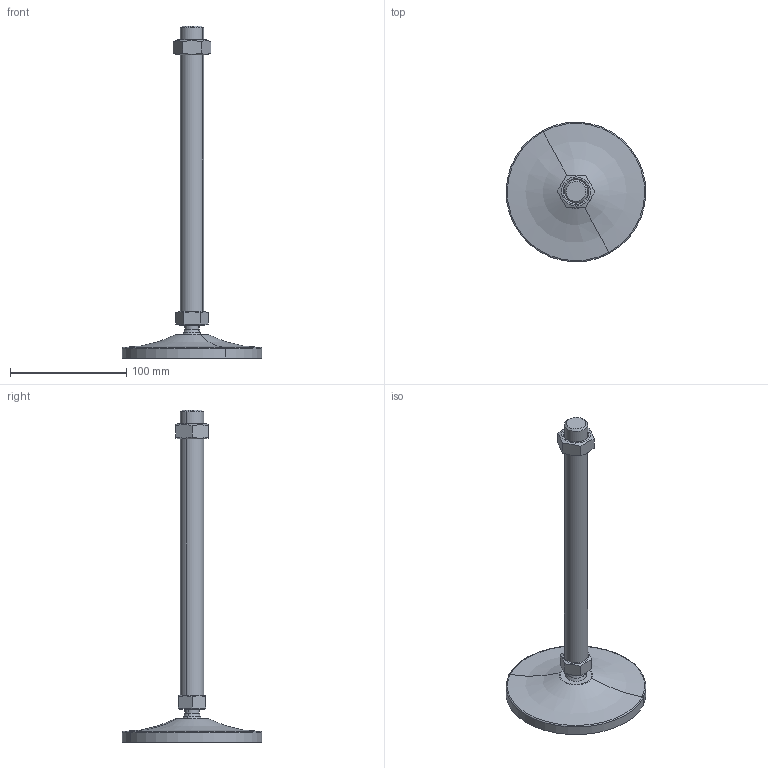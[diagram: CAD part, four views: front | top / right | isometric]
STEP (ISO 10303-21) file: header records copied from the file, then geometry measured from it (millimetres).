
FILE_DESCRIPTION(('CATIA V5 STEP Exchange'),'2;1');
FILE_NAME('C:\Users\ALI OZGUN\Desktop\alhan\saplama2\560122029.stp','2017-09-21T10:36:14+00:00',('none'),('none'),'CATIA Version 5 Release 21 GA (IN-10)','CATIA V5 STEP AP203','none');
FILE_SCHEMA(('CONFIG_CONTROL_DESIGN'));
Length unit declared in the file: millimetre
Products named in the file (1): 560122029
Bounding box: 119.97 x 119.97 x 285 mm (x, y, z)
Volume: 175068.8 mm3; surface area: 48924.8 mm2
Topology: 3 solids, 3 shells, 60 faces, 136 edges, 83 vertices
Faces by surface type: plane 20, cone 16, cylinder 14, torus 4, revolution 4, sphere 2
Entity records: 1878 total; most frequent: CARTESIAN_POINT 636, ORIENTED_EDGE 268, DIRECTION 185, EDGE_CURVE 134, AXIS2_PLACEMENT_3D 99, VERTEX_POINT 83, EDGE_LOOP 67, ADVANCED_FACE 60
